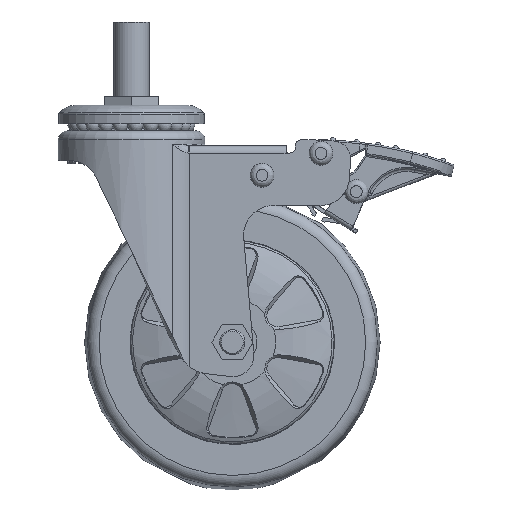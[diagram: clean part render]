
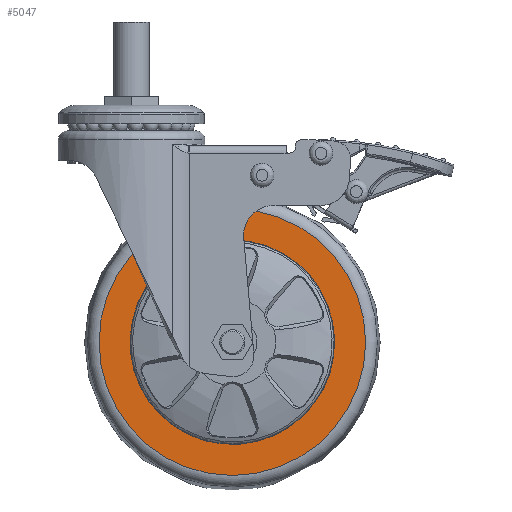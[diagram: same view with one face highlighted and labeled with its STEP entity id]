
A CAD part, front view. The second image highlights one B-rep face of the part: STEP entity #5047.
In plain terms, the highlighted planar face has unit normal (0, -1, 0).
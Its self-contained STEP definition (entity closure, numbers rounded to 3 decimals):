
#5047=ADVANCED_FACE('',(#6686,#6687),#6184,.F.);
#6184=PLANE('',#19796);
#6686=FACE_BOUND('',#7078,.T.);
#6687=FACE_BOUND('',#7079,.T.);
#7078=EDGE_LOOP('',(#8566));
#7079=EDGE_LOOP('',(#8567));
#8566=ORIENTED_EDGE('',*,*,#16316,.T.);
#8567=ORIENTED_EDGE('',*,*,#16317,.F.);
#14374=VERTEX_POINT('',#27357);
#14375=VERTEX_POINT('',#27359);
#16316=EDGE_CURVE('',#14374,#14374,#19106,.T.);
#16317=EDGE_CURVE('',#14375,#14375,#19107,.T.);
#19106=CIRCLE('',#19794,44.969);
#19107=CIRCLE('',#19795,34.495);
#19794=AXIS2_PLACEMENT_3D('',#27356,#21530,#21531);
#19795=AXIS2_PLACEMENT_3D('',#27358,#21532,#21533);
#19796=AXIS2_PLACEMENT_3D('',#27360,#21534,#21535);
#21530=DIRECTION('',(0.,-1.,0.));
#21531=DIRECTION('',(0.,0.,1.));
#21532=DIRECTION('',(0.,-1.,0.));
#21533=DIRECTION('',(0.,0.,1.));
#21534=DIRECTION('',(0.,1.,0.));
#21535=DIRECTION('',(0.,0.,-1.));
#27356=CARTESIAN_POINT('',(34.,-12.778,-108.));
#27357=CARTESIAN_POINT('',(34.,-12.778,-63.031));
#27358=CARTESIAN_POINT('',(34.,-12.778,-108.));
#27359=CARTESIAN_POINT('',(34.,-12.778,-73.505));
#27360=CARTESIAN_POINT('',(34.,-12.778,-108.));
